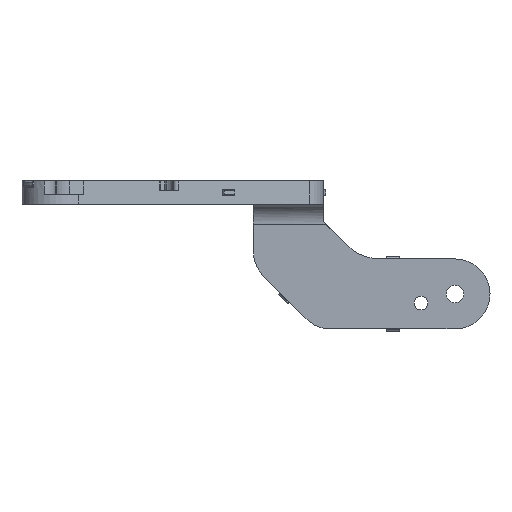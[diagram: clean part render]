
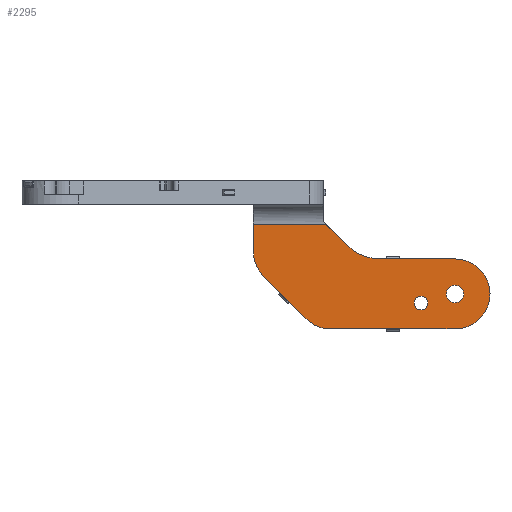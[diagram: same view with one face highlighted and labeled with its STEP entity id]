
A CAD part, left-side view. The second image highlights one B-rep face of the part: STEP entity #2295.
In plain terms, the highlighted planar face has unit normal (-1, 0, 0).
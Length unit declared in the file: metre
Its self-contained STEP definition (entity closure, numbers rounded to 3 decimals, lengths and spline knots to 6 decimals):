
#102=CIRCLE('',#2466,0.00205);
#103=CIRCLE('',#2467,0.00265);
#104=CIRCLE('',#2468,0.0105);
#105=CIRCLE('',#2469,0.0105);
#106=CIRCLE('',#2470,0.0105);
#107=CIRCLE('',#2471,0.0145);
#305=ORIENTED_EDGE('',*,*,#984,.F.);
#306=ORIENTED_EDGE('',*,*,#985,.F.);
#307=ORIENTED_EDGE('',*,*,#986,.T.);
#308=ORIENTED_EDGE('',*,*,#896,.T.);
#309=ORIENTED_EDGE('',*,*,#987,.T.);
#310=ORIENTED_EDGE('',*,*,#889,.F.);
#311=ORIENTED_EDGE('',*,*,#988,.T.);
#312=ORIENTED_EDGE('',*,*,#876,.T.);
#313=ORIENTED_EDGE('',*,*,#989,.F.);
#314=ORIENTED_EDGE('',*,*,#990,.F.);
#315=ORIENTED_EDGE('',*,*,#927,.F.);
#316=ORIENTED_EDGE('',*,*,#919,.F.);
#876=EDGE_CURVE('',#1221,#1222,#1455,.T.);
#889=EDGE_CURVE('',#1233,#1235,#1468,.T.);
#896=EDGE_CURVE('',#1241,#1242,#1475,.T.);
#919=EDGE_CURVE('',#1264,#1265,#1495,.T.);
#927=EDGE_CURVE('',#1265,#1272,#1502,.T.);
#984=EDGE_CURVE('',#1321,#1321,#102,.T.);
#985=EDGE_CURVE('',#1322,#1322,#103,.T.);
#986=EDGE_CURVE('',#1264,#1241,#104,.T.);
#987=EDGE_CURVE('',#1242,#1235,#105,.T.);
#988=EDGE_CURVE('',#1233,#1221,#106,.T.);
#989=EDGE_CURVE('',#1323,#1222,#107,.T.);
#990=EDGE_CURVE('',#1272,#1323,#1533,.T.);
#1221=VERTEX_POINT('',#3377);
#1222=VERTEX_POINT('',#3378);
#1233=VERTEX_POINT('',#3402);
#1235=VERTEX_POINT('',#3405);
#1241=VERTEX_POINT('',#3419);
#1242=VERTEX_POINT('',#3420);
#1264=VERTEX_POINT('',#3466);
#1265=VERTEX_POINT('',#3468);
#1272=VERTEX_POINT('',#3484);
#1321=VERTEX_POINT('',#3598);
#1322=VERTEX_POINT('',#3600);
#1323=VERTEX_POINT('',#3605);
#1455=LINE('',#3376,#1682);
#1468=LINE('',#3404,#1695);
#1475=LINE('',#3418,#1702);
#1495=LINE('',#3467,#1722);
#1502=LINE('',#3483,#1729);
#1533=LINE('',#3606,#1760);
#1682=VECTOR('',#2667,1.);
#1695=VECTOR('',#2682,1.);
#1702=VECTOR('',#2691,1.);
#1722=VECTOR('',#2721,1.);
#1729=VECTOR('',#2732,1.);
#1760=VECTOR('',#2843,1.);
#1927=EDGE_LOOP('',(#305));
#1928=EDGE_LOOP('',(#306));
#1929=EDGE_LOOP('',(#307,#308,#309,#310,#311,#312,#313,#314,#315,#316));
#2078=FACE_BOUND('',#1927,.T.);
#2079=FACE_BOUND('',#1928,.T.);
#2080=FACE_BOUND('',#1929,.T.);
#2221=PLANE('',#2465);
#2295=ADVANCED_FACE('',(#2078,#2079,#2080),#2221,.F.);
#2465=AXIS2_PLACEMENT_3D('',#3596,#2829,#2830);
#2466=AXIS2_PLACEMENT_3D('',#3597,#2831,#2832);
#2467=AXIS2_PLACEMENT_3D('',#3599,#2833,#2834);
#2468=AXIS2_PLACEMENT_3D('',#3601,#2835,#2836);
#2469=AXIS2_PLACEMENT_3D('',#3602,#2837,#2838);
#2470=AXIS2_PLACEMENT_3D('',#3603,#2839,#2840);
#2471=AXIS2_PLACEMENT_3D('',#3604,#2841,#2842);
#2667=DIRECTION('',(0.,1.,0.));
#2682=DIRECTION('',(0.,1.,0.));
#2691=DIRECTION('',(0.,-0.707,-0.707));
#2721=DIRECTION('',(0.,0.,1.));
#2732=DIRECTION('',(0.,-1.,0.));
#2829=DIRECTION('',(1.,0.,0.));
#2830=DIRECTION('',(0.,-1.,0.));
#2831=DIRECTION('',(-1.,0.,0.));
#2832=DIRECTION('',(0.,0.,1.));
#2833=DIRECTION('',(-1.,0.,0.));
#2834=DIRECTION('',(0.,0.,1.));
#2835=DIRECTION('',(-1.,0.,0.));
#2836=DIRECTION('',(0.,0.,1.));
#2837=DIRECTION('',(-1.,0.,0.));
#2838=DIRECTION('',(0.,0.,1.));
#2839=DIRECTION('',(-1.,0.,0.));
#2840=DIRECTION('',(0.,0.,1.));
#2841=DIRECTION('',(-1.,0.,0.));
#2842=DIRECTION('',(0.,0.,1.));
#2843=DIRECTION('',(0.,-0.707,-0.707));
#3376=CARTESIAN_POINT('',(0.364,-0.0695,-0.009875));
#3377=CARTESIAN_POINT('',(0.364,-0.1195,-0.009875));
#3378=CARTESIAN_POINT('',(0.364,-0.097178,-0.009875));
#3402=CARTESIAN_POINT('',(0.364,-0.1195,-0.030875));
#3404=CARTESIAN_POINT('',(0.364,-0.0695,-0.030875));
#3405=CARTESIAN_POINT('',(0.364,-0.082178,-0.030875));
#3418=CARTESIAN_POINT('',(0.364,-0.062302,-0.015348));
#3419=CARTESIAN_POINT('',(0.364,-0.062075,-0.015122));
#3420=CARTESIAN_POINT('',(0.364,-0.074753,-0.0278));
#3466=CARTESIAN_POINT('',(0.364,-0.059,-0.007697));
#3467=CARTESIAN_POINT('',(0.364,-0.059,-0.00815));
#3468=CARTESIAN_POINT('',(0.364,-0.059,0.000575));
#3483=CARTESIAN_POINT('',(0.364,-0.082,0.000575));
#3484=CARTESIAN_POINT('',(0.364,-0.080722,0.000575));
#3596=CARTESIAN_POINT('',(0.364,-0.0695,-0.00815));
#3597=CARTESIAN_POINT('',(0.364,-0.109261,-0.023118));
#3598=CARTESIAN_POINT('',(0.364,-0.109261,-0.021068));
#3599=CARTESIAN_POINT('',(0.364,-0.1195,-0.020375));
#3600=CARTESIAN_POINT('',(0.364,-0.1195,-0.017725));
#3601=CARTESIAN_POINT('',(0.364,-0.0695,-0.007697));
#3602=CARTESIAN_POINT('',(0.364,-0.082178,-0.020375));
#3603=CARTESIAN_POINT('',(0.364,-0.1195,-0.020375));
#3604=CARTESIAN_POINT('',(0.364,-0.097178,0.004625));
#3605=CARTESIAN_POINT('',(0.364,-0.086925,-0.005628));
#3606=CARTESIAN_POINT('',(0.364,-0.079473,0.001823));
